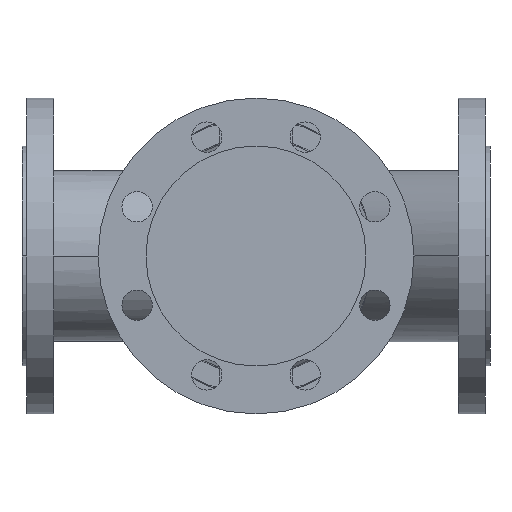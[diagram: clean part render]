
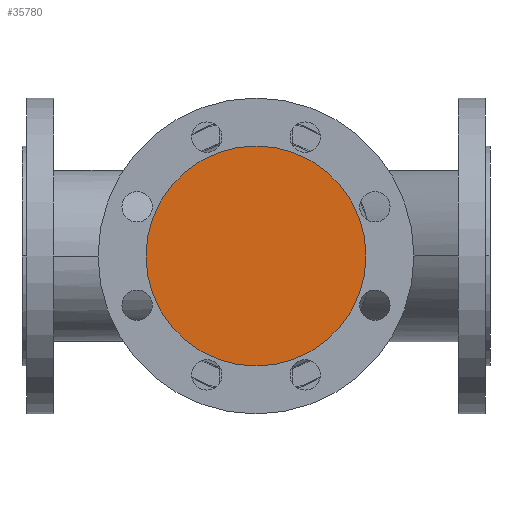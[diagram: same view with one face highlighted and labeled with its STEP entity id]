
A CAD part, front view. The second image highlights one B-rep face of the part: STEP entity #35780.
In plain terms, the highlighted planar face has unit normal (0, -1, 0).
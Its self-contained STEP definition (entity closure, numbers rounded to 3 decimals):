
#6350=CARTESIAN_POINT('',(294.,-200.,0.));
#6360=VERTEX_POINT('',#6350);
#6390=CARTESIAN_POINT('',(200.,-200.,0.));
#6400=DIRECTION('',(0.,1.,0.));
#6410=DIRECTION('',(1.,0.,0.));
#6420=AXIS2_PLACEMENT_3D('',#6390,#6400,#6410);
#6430=CIRCLE('',#6420,94.);
#6440=CARTESIAN_POINT('',(106.,-200.,0.));
#6450=VERTEX_POINT('',#6440);
#6460=EDGE_CURVE('',#6450,#6360,#6430,.T.);
#35680=CARTESIAN_POINT('',(247.,-200.,0.));
#35690=DIRECTION('',(0.,-1.,0.));
#35700=DIRECTION('',(-1.,0.,0.));
#35710=AXIS2_PLACEMENT_3D('',#35680,#35690,#35700);
#35720=PLANE('',#35710);
#35730=ORIENTED_EDGE('',*,*,#6460,.F.);
#35740=EDGE_CURVE('',#6360,#6450,#6430,.T.);
#35750=ORIENTED_EDGE('',*,*,#35740,.F.);
#35760=EDGE_LOOP('',(#35750,#35730));
#35770=FACE_OUTER_BOUND('',#35760,.T.);
#35780=ADVANCED_FACE('',(#35770),#35720,.T.);
